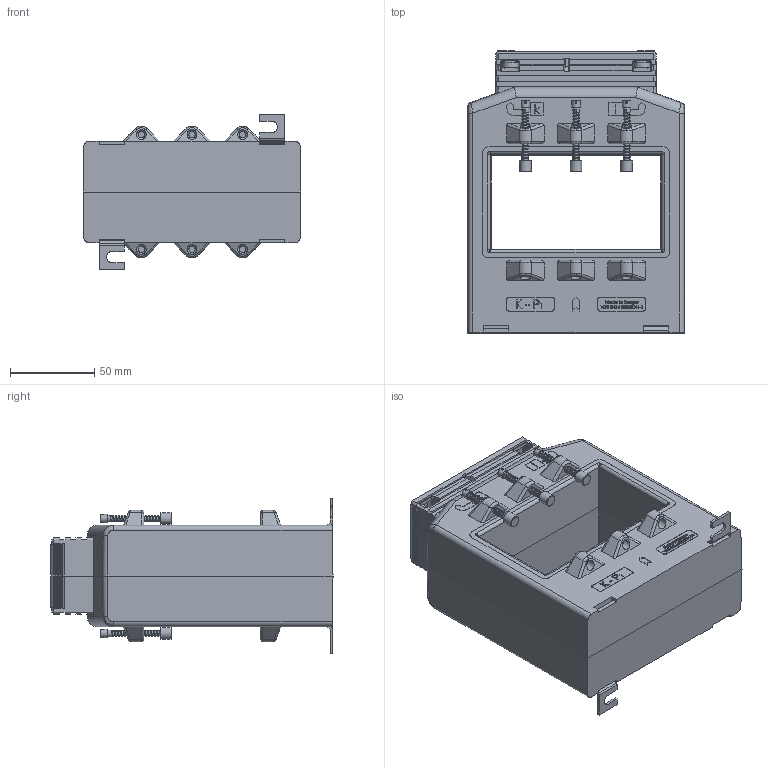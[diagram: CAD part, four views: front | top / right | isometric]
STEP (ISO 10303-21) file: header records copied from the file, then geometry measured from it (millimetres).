
FILE_DESCRIPTION(/* description */ (''),/* implementation_level */ '2;1');
FILE_NAME(/* name */ 'ASK105.6.stp',/* time_stamp */ '2024-03-04T14:29:39+01:00',/* author */ ('JDI'),/* organization */ (''),/* preprocessor_version */ 'ST-DEVELOPER v19.2',/* originating_system */ 'Autodesk Inventor 2023',/* authorisation */ '');
FILE_SCHEMA (('AUTOMOTIVE_DESIGN { 1 0 10303 214 3 1 1 }'));
Products named in the file (1): ASK105.6
Bounding box: 129 x 167 x 92 mm (x, y, z)
Volume: 847246.3 mm3; surface area: 101350.5 mm2
Topology: 1 solids, 1 shells, 2196 faces, 5871 edges, 3789 vertices
Faces by surface type: plane 1275, cylinder 469, bspline 370, cone 58, torus 16, sphere 8
Full cylindrical faces by diameter (mm): 2.95 x2, 3 x110, 3.75 x24, 3.8 x9, 4 x72, 4.1 x6, 5 x6, 5.8 x12, 10 x4
Entity records: 110805 total; most frequent: CARTESIAN_POINT 57103, ORIENTED_EDGE 11742, DIRECTION 8990, EDGE_CURVE 5871, LINE 3826, VECTOR 3826, VERTEX_POINT 3789, AXIS2_PLACEMENT_3D 2582
